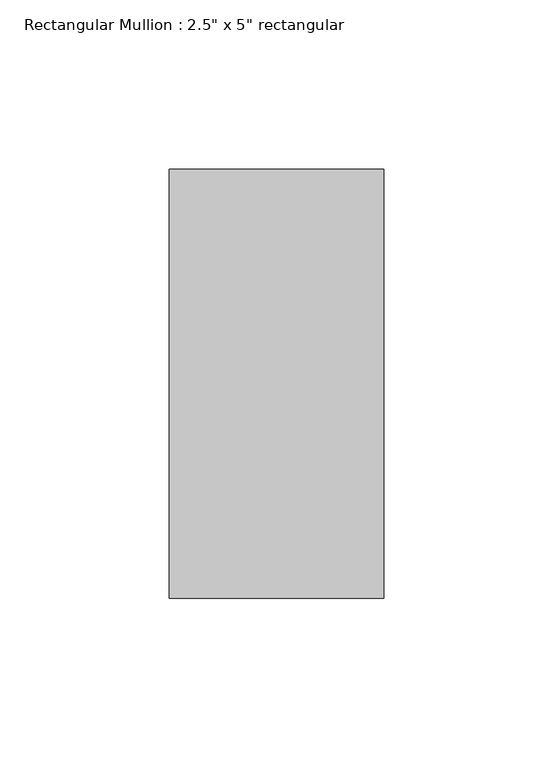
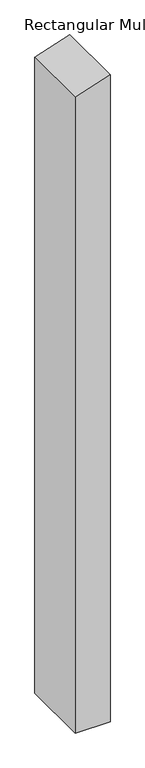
"""IFC4 building model written with IfcOpenShell, lengths in millimetres: member geometry."""

from ifc_helpers import new_model, si_unit, frame, origin, place, context, project, spatial, polyline, outline, extrude, source, transform, mapped, element, save


def member_27fd6fac(model_context):
    return source(origin(), model_context, "Body", "SweptSolid", [
        extrude(outline(polyline([(0.0, 0.0), (-21.1666667, -63.5), (-1244.9887148, -63.5), (-1244.9887148, 0.0), (0.0, 0.0)])), frame((0.0, -63.5, 0.0), z_axis=(0.0, 1.0, 0.0), x_axis=(0.0, 0.0, 1.0)), (0.0, 0.0, 1.0), 127.0),
    ])


if __name__ == "__main__":
    model = new_model("IFC4")
    model_context = context("Model", 3, world=origin())
    ifc_project = project(units=[si_unit("LENGTHUNIT", "METRE", prefix="MILLI")], contexts=[model_context])
    site = spatial("IfcSite", under=ifc_project)
    building = spatial("IfcBuilding", under=site)
    placement = place(None, origin())
    member_shape = member_27fd6fac(model_context)
    element("IfcMember", 1, ObjectType="Rectangular Mullion : 2.5\" x 5\" rectangular", at=placement, inside=building, context=model_context, shape_type="MappedRepresentation", body=[
        mapped(member_shape, transform((0.0, 0.0, 0.0), x_axis=(1.0, 0.0, 0.0), y_axis=(0.0, 1.0, 0.0), z_axis=(0.0, 0.0, 1.0))),
    ])
    save(model, "model.ifc")
